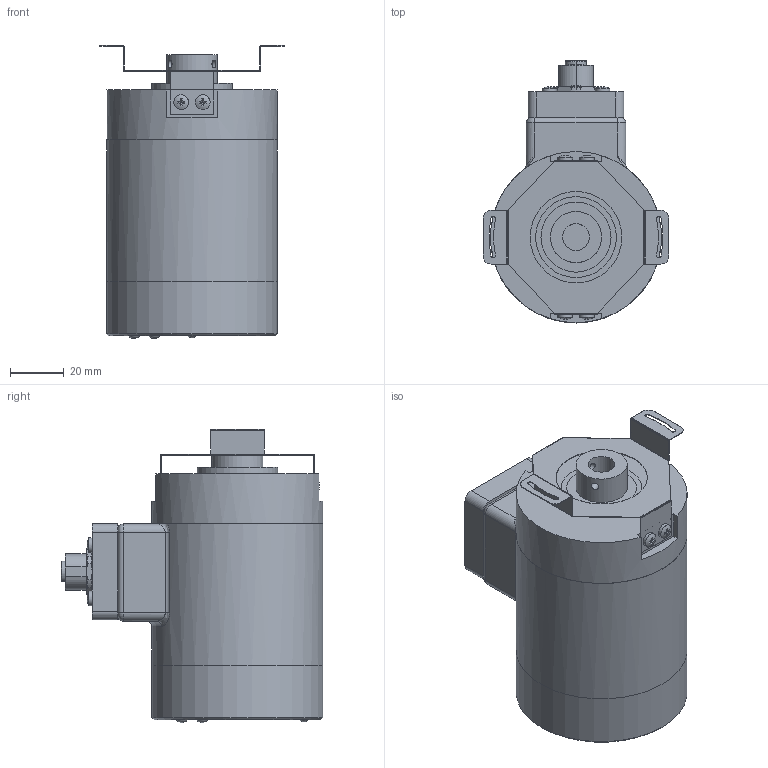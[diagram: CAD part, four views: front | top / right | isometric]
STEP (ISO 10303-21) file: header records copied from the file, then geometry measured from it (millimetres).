
FILE_DESCRIPTION(/* description */ ('Alibre Inc.'),/* implementation_level */ '2;1');
FILE_NAME(/* name */ 'export0',/* time_stamp */ '2010-05-25T09:14:27-04:00',/* author */ (''),/* organization */ (''),/* preprocessor_version */ 'ST-DEVELOPER v10',/* originating_system */ 'Alibre',/* authorisation */ '');
FILE_SCHEMA (('CONFIG_CONTROL_DESIGN'));
Length unit declared in the file: centimetre
Products named in the file (16): ID_1; ID_2; ID_3; ID_4; ID_5; ID_6; ID_7; ID_8; ID_9; ID_10; ID_11; ID_12
Bounding box: 69 x 97.22 x 108.87 mm (x, y, z)
Volume: 317882.8 mm3; surface area: 63597.1 mm2
Topology: 20 solids, 20 shells, 501 faces, 1182 edges, 771 vertices
Faces by surface type: plane 162, cylinder 144, bspline 144, cone 35, torus 8, sphere 8
Full cylindrical faces by diameter (mm): 2.87 x15, 2.92 x2, 3 x21, 3.2 x4, 3.96 x4, 5.44 x8, 10 x1, 11.5 x1, 19 x3, 20 x2, 24 x2, 26 x2, 30 x1, 34 x1, 37 x2, 58.72 x2, 63.5 x3
Entity records: 12366 total; most frequent: CARTESIAN_POINT 3229, DIRECTION 1454, ORIENTED_EDGE 1408, EDGE_CURVE 704, AXIS2_PLACEMENT_3D 651, VERTEX_POINT 493, EDGE_LOOP 483, FACE_BOUND 483
